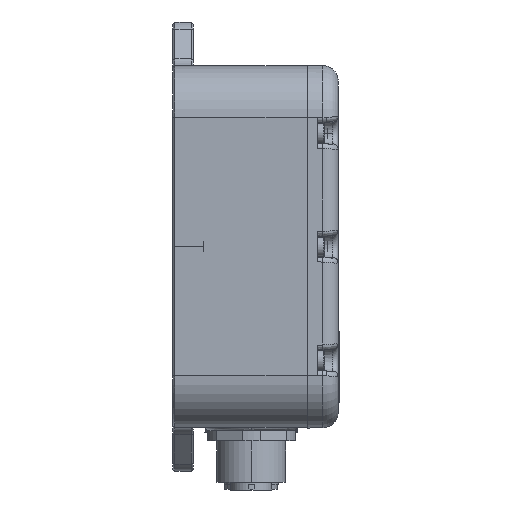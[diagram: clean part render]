
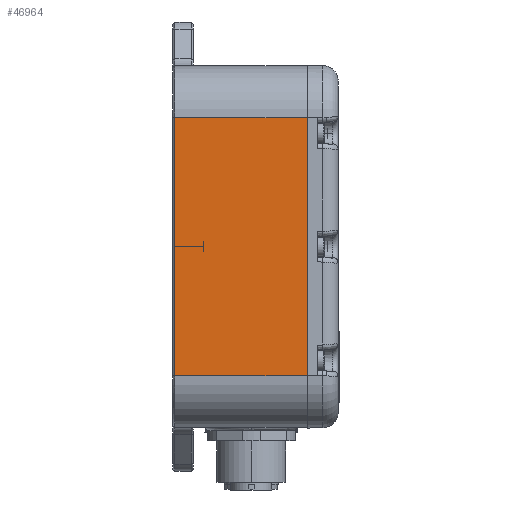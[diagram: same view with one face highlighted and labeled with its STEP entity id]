
A CAD part, left-side view. The second image highlights one B-rep face of the part: STEP entity #46964.
In plain terms, the highlighted planar face has unit normal (-1, 0, 0).
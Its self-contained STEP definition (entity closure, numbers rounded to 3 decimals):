
#193 = CARTESIAN_POINT ( 'NONE',  ( 0., 0., -10. ) ) ;
#1165 = VECTOR ( 'NONE', #38266, 1000. ) ;
#3936 = DIRECTION ( 'NONE',  ( 0., -1., 0. ) ) ;
#5242 = EDGE_CURVE ( 'NONE', #17532, #18068, #21219, .T. ) ;
#6676 = LINE ( 'NONE', #28118, #16589 ) ;
#7188 = CARTESIAN_POINT ( 'NONE',  ( 0., 0., -60. ) ) ;
#9130 = EDGE_CURVE ( 'NONE', #17532, #17143, #29615, .T. ) ;
#12128 = VECTOR ( 'NONE', #37070, 1000. ) ;
#16436 = DIRECTION ( 'NONE',  ( 0., 1., 0. ) ) ;
#16589 = VECTOR ( 'NONE', #35620, 1000. ) ;
#17143 = VERTEX_POINT ( 'NONE', #7188 ) ;
#17532 = VERTEX_POINT ( 'NONE', #42785 ) ;
#18068 = VERTEX_POINT ( 'NONE', #22218 ) ;
#20488 = EDGE_LOOP ( 'NONE', ( #42801, #36364, #20503, #45941 ) ) ;
#20503 = ORIENTED_EDGE ( 'NONE', *, *, #42201, .F. ) ;
#21219 = LINE ( 'NONE', #25592, #23529 ) ;
#22026 = LINE ( 'NONE', #33184, #12128 ) ;
#22218 = CARTESIAN_POINT ( 'NONE',  ( 0., 25.6, -10. ) ) ;
#23529 = VECTOR ( 'NONE', #16436, 1000. ) ;
#23700 = CARTESIAN_POINT ( 'NONE',  ( 0., 0., -10. ) ) ;
#25592 = CARTESIAN_POINT ( 'NONE',  ( 0., 0., -10. ) ) ;
#26277 = DIRECTION ( 'NONE',  ( 1., 0., 0. ) ) ;
#28118 = CARTESIAN_POINT ( 'NONE',  ( 0., 0., -60. ) ) ;
#29615 = LINE ( 'NONE', #23700, #1165 ) ;
#31762 = EDGE_CURVE ( 'NONE', #18068, #32805, #22026, .T. ) ;
#32805 = VERTEX_POINT ( 'NONE', #45333 ) ;
#33184 = CARTESIAN_POINT ( 'NONE',  ( 0., 25.6, -60. ) ) ;
#33554 = PLANE ( 'NONE',  #40856 ) ;
#35620 = DIRECTION ( 'NONE',  ( 0., 1., 0. ) ) ;
#36364 = ORIENTED_EDGE ( 'NONE', *, *, #31762, .T. ) ;
#37070 = DIRECTION ( 'NONE',  ( 0., 0., -1. ) ) ;
#37602 = FACE_OUTER_BOUND ( 'NONE', #20488, .T. ) ;
#38266 = DIRECTION ( 'NONE',  ( 0., 0., -1. ) ) ;
#40856 = AXIS2_PLACEMENT_3D ( 'NONE', #193, #26277, #3936 ) ;
#42201 = EDGE_CURVE ( 'NONE', #17143, #32805, #6676, .T. ) ;
#42785 = CARTESIAN_POINT ( 'NONE',  ( 0., 0., -10. ) ) ;
#42801 = ORIENTED_EDGE ( 'NONE', *, *, #5242, .T. ) ;
#45333 = CARTESIAN_POINT ( 'NONE',  ( 0., 25.6, -60. ) ) ;
#45941 = ORIENTED_EDGE ( 'NONE', *, *, #9130, .F. ) ;
#46964 = ADVANCED_FACE ( 'NONE', ( #37602 ), #33554, .F. ) ;
